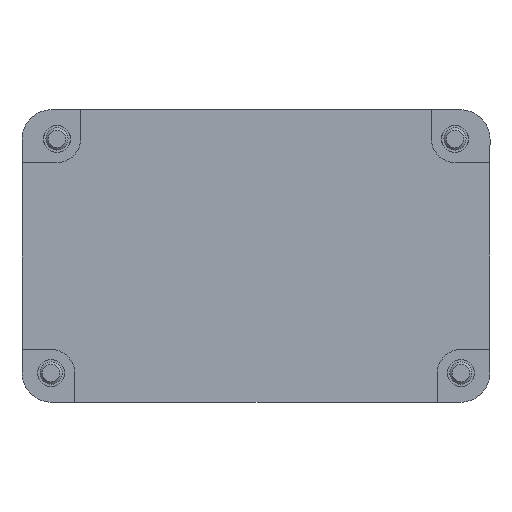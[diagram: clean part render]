
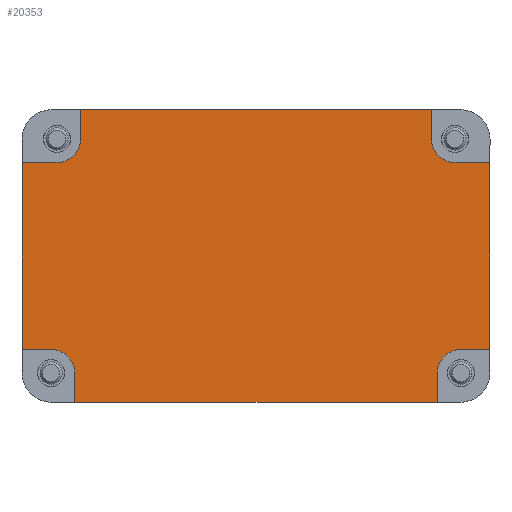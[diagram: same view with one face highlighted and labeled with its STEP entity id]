
A CAD part, front view. The second image highlights one B-rep face of the part: STEP entity #20353.
In plain terms, the highlighted planar face has unit normal (0, -1, 0).
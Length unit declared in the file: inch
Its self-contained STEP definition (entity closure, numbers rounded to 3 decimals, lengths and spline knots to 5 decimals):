
#437 = EDGE_CURVE ( 'NONE', #15793, #42223, #36464, .T. ) ;
#493 = CARTESIAN_POINT ( 'NONE',  ( -0.35825, -1.21408, -0.79851 ) ) ;
#1122 = CIRCLE ( 'NONE', #47755, 0.20149 ) ;
#1432 = CARTESIAN_POINT ( 'NONE',  ( -0.55974, -1.21408, -1. ) ) ;
#1822 = CARTESIAN_POINT ( 'NONE',  ( -3.80825, -1.21408, 0.79851 ) ) ;
#2106 = CIRCLE ( 'NONE', #42299, 0.20149 ) ;
#2331 = DIRECTION ( 'NONE',  ( 0., -1., 0. ) ) ;
#2471 = CARTESIAN_POINT ( 'NONE',  ( -3.60676, -1.21408, 1.2479 ) ) ;
#2693 = CARTESIAN_POINT ( 'NONE',  ( -3.85825, -1.21408, -0.79851 ) ) ;
#2924 = DIRECTION ( 'NONE',  ( 0., -1., 0. ) ) ;
#3318 = CARTESIAN_POINT ( 'NONE',  ( -0.60974, -1.21408, 1.2479 ) ) ;
#4545 = DIRECTION ( 'NONE',  ( 0., -1., 0. ) ) ;
#5139 = B_SPLINE_CURVE_WITH_KNOTS ( 'NONE', 1,
 ( #19714, #27631 ),
 .UNSPECIFIED., .F., .F.,
 ( 2, 2 ),
 ( 0., 1. ),
 .UNSPECIFIED. ) ;
#5157 = CARTESIAN_POINT ( 'NONE',  ( -4.10615, -1.21408, -0.79851 ) ) ;
#5460 = CIRCLE ( 'NONE', #26399, 0.20149 ) ;
#6961 = EDGE_CURVE ( 'NONE', #31471, #32454, #19603, .T. ) ;
#8432 = CARTESIAN_POINT ( 'NONE',  ( -3.60676, -1.21408, 1.2479 ) ) ;
#8604 = EDGE_CURVE ( 'NONE', #49919, #15793, #1122, .T. ) ;
#8987 = B_SPLINE_CURVE_WITH_KNOTS ( 'NONE', 1,
 ( #12265, #8432 ),
 .UNSPECIFIED., .F., .F.,
 ( 2, 2 ),
 ( 0., 1. ),
 .UNSPECIFIED. ) ;
#9755 = CARTESIAN_POINT ( 'NONE',  ( -0.11034, -1.21408, 0.79851 ) ) ;
#10302 = DIRECTION ( 'NONE',  ( 0., -1., 0. ) ) ;
#11742 = EDGE_CURVE ( 'NONE', #28504, #44369, #5139, .T. ) ;
#11899 = CARTESIAN_POINT ( 'NONE',  ( -3.80825, -1.21408, 0.79851 ) ) ;
#12265 = CARTESIAN_POINT ( 'NONE',  ( -3.60676, -1.21408, 1. ) ) ;
#12367 = ORIENTED_EDGE ( 'NONE', *, *, #20000, .F. ) ;
#12531 = CARTESIAN_POINT ( 'NONE',  ( -0.35825, -1.21408, -1. ) ) ;
#12915 = CARTESIAN_POINT ( 'NONE',  ( -0.55974, -1.21408, -1.2479 ) ) ;
#13124 = CARTESIAN_POINT ( 'NONE',  ( -0.60974, -1.21408, 1.2479 ) ) ;
#13566 = B_SPLINE_CURVE_WITH_KNOTS ( 'NONE', 1,
 ( #13124, #14460 ),
 .UNSPECIFIED., .F., .F.,
 ( 2, 2 ),
 ( 0., 1. ),
 .UNSPECIFIED. ) ;
#13617 = ORIENTED_EDGE ( 'NONE', *, *, #17355, .F. ) ;
#13892 = ORIENTED_EDGE ( 'NONE', *, *, #20226, .F. ) ;
#14460 = CARTESIAN_POINT ( 'NONE',  ( -0.60974, -1.21408, 1. ) ) ;
#15304 = CARTESIAN_POINT ( 'NONE',  ( -0.55974, -1.21408, -1.2479 ) ) ;
#15499 = ORIENTED_EDGE ( 'NONE', *, *, #18732, .T. ) ;
#15793 = VERTEX_POINT ( 'NONE', #39724 ) ;
#16339 = DIRECTION ( 'NONE',  ( 0., 0., -1. ) ) ;
#16636 = CARTESIAN_POINT ( 'NONE',  ( -4.10615, -1.21408, -0.79851 ) ) ;
#16943 = CARTESIAN_POINT ( 'NONE',  ( -0.11034, -1.21408, 0.79851 ) ) ;
#17003 = VERTEX_POINT ( 'NONE', #2471 ) ;
#17355 = EDGE_CURVE ( 'NONE', #44030, #44383, #5460, .T. ) ;
#17421 = CARTESIAN_POINT ( 'NONE',  ( -0.35825, -1.21408, -0.79851 ) ) ;
#17474 = CARTESIAN_POINT ( 'NONE',  ( -3.65676, -1.21408, -1. ) ) ;
#17864 = CARTESIAN_POINT ( 'NONE',  ( -3.60676, -1.21408, 1. ) ) ;
#17890 = EDGE_CURVE ( 'NONE', #37002, #49919, #13566, .T. ) ;
#18186 = CARTESIAN_POINT ( 'NONE',  ( -0.40825, -1.21408, 0.79851 ) ) ;
#18507 = CARTESIAN_POINT ( 'NONE',  ( -0.11034, -1.21408, 0.79851 ) ) ;
#18732 = EDGE_CURVE ( 'NONE', #48773, #42223, #48051, .T. ) ;
#19603 = B_SPLINE_CURVE_WITH_KNOTS ( 'NONE', 1,
 ( #36483, #17474 ),
 .UNSPECIFIED., .F., .F.,
 ( 2, 2 ),
 ( 0., 1. ),
 .UNSPECIFIED. ) ;
#19714 = CARTESIAN_POINT ( 'NONE',  ( -3.85825, -1.21408, -0.79851 ) ) ;
#20000 = EDGE_CURVE ( 'NONE', #36673, #46142, #25457, .T. ) ;
#20226 = EDGE_CURVE ( 'NONE', #17003, #37002, #27291, .T. ) ;
#20338 = VERTEX_POINT ( 'NONE', #45098 ) ;
#20353 = ADVANCED_FACE ( 'NONE', ( #32838 ), #48988, .T. ) ;
#20893 = B_SPLINE_CURVE_WITH_KNOTS ( 'NONE', 1,
 ( #16636, #24211 ),
 .UNSPECIFIED., .F., .F.,
 ( 2, 2 ),
 ( 0., 1. ),
 .UNSPECIFIED. ) ;
#21361 = CARTESIAN_POINT ( 'NONE',  ( -3.60676, -1.21408, 1.2479 ) ) ;
#22577 = ORIENTED_EDGE ( 'NONE', *, *, #8604, .F. ) ;
#24174 = CARTESIAN_POINT ( 'NONE',  ( -4.10615, -1.21408, 0.79851 ) ) ;
#24211 = CARTESIAN_POINT ( 'NONE',  ( -4.10615, -1.21408, 0.79851 ) ) ;
#25322 = CARTESIAN_POINT ( 'NONE',  ( -3.80825, -1.21408, 1. ) ) ;
#25457 = B_SPLINE_CURVE_WITH_KNOTS ( 'NONE', 1,
 ( #28688, #1822 ),
 .UNSPECIFIED., .F., .F.,
 ( 2, 2 ),
 ( 0., 1. ),
 .UNSPECIFIED. ) ;
#26025 = ORIENTED_EDGE ( 'NONE', *, *, #11742, .F. ) ;
#26399 = AXIS2_PLACEMENT_3D ( 'NONE', #12531, #39378, #16339 ) ;
#26622 = EDGE_CURVE ( 'NONE', #31471, #20338, #31985, .T. ) ;
#27202 = CARTESIAN_POINT ( 'NONE',  ( -0.11034, -1.21408, -0.79851 ) ) ;
#27291 = B_SPLINE_CURVE_WITH_KNOTS ( 'NONE', 1,
 ( #21361, #44449 ),
 .UNSPECIFIED., .F., .F.,
 ( 2, 2 ),
 ( 0., 1. ),
 .UNSPECIFIED. ) ;
#27376 = EDGE_CURVE ( 'NONE', #46480, #17003, #8987, .T. ) ;
#27400 = B_SPLINE_CURVE_WITH_KNOTS ( 'NONE', 1,
 ( #27202, #493 ),
 .UNSPECIFIED., .F., .F.,
 ( 2, 2 ),
 ( 0., 1. ),
 .UNSPECIFIED. ) ;
#27544 = CARTESIAN_POINT ( 'NONE',  ( -3.85825, -1.21408, -1. ) ) ;
#27631 = CARTESIAN_POINT ( 'NONE',  ( -4.10615, -1.21408, -0.79851 ) ) ;
#28504 = VERTEX_POINT ( 'NONE', #2693 ) ;
#28688 = CARTESIAN_POINT ( 'NONE',  ( -4.10615, -1.21408, 0.79851 ) ) ;
#28776 = EDGE_CURVE ( 'NONE', #32454, #28504, #36418, .T. ) ;
#29192 = DIRECTION ( 'NONE',  ( 0., 0., -1. ) ) ;
#29776 = DIRECTION ( 'NONE',  ( 0., 0., -1. ) ) ;
#30775 = B_SPLINE_CURVE_WITH_KNOTS ( 'NONE', 1,
 ( #30958, #15304 ),
 .UNSPECIFIED., .F., .F.,
 ( 2, 2 ),
 ( 0., 1. ),
 .UNSPECIFIED. ) ;
#30958 = CARTESIAN_POINT ( 'NONE',  ( -0.55974, -1.21408, -1. ) ) ;
#31336 = CARTESIAN_POINT ( 'NONE',  ( -3.65676, -1.21408, -1.2479 ) ) ;
#31409 = DIRECTION ( 'NONE',  ( 0., 0., -1. ) ) ;
#31471 = VERTEX_POINT ( 'NONE', #31336 ) ;
#31985 = B_SPLINE_CURVE_WITH_KNOTS ( 'NONE', 1,
 ( #39799, #12915 ),
 .UNSPECIFIED., .F., .F.,
 ( 2, 2 ),
 ( 0., 1. ),
 .UNSPECIFIED. ) ;
#32454 = VERTEX_POINT ( 'NONE', #34839 ) ;
#32838 = FACE_OUTER_BOUND ( 'NONE', #39081, .T. ) ;
#33161 = ORIENTED_EDGE ( 'NONE', *, *, #27376, .F. ) ;
#33319 = CARTESIAN_POINT ( 'NONE',  ( -0.40825, -1.21408, 1. ) ) ;
#33517 = CARTESIAN_POINT ( 'NONE',  ( -0.55974, -1.21408, -1.12895 ) ) ;
#34057 = ORIENTED_EDGE ( 'NONE', *, *, #43828, .F. ) ;
#34422 = AXIS2_PLACEMENT_3D ( 'NONE', #27544, #4545, #31409 ) ;
#34619 = AXIS2_PLACEMENT_3D ( 'NONE', #33517, #2924, #29776 ) ;
#34651 = ORIENTED_EDGE ( 'NONE', *, *, #28776, .F. ) ;
#34839 = CARTESIAN_POINT ( 'NONE',  ( -3.65676, -1.21408, -1. ) ) ;
#35719 = EDGE_CURVE ( 'NONE', #44383, #20338, #30775, .T. ) ;
#36418 = CIRCLE ( 'NONE', #34422, 0.20149 ) ;
#36464 = B_SPLINE_CURVE_WITH_KNOTS ( 'NONE', 1,
 ( #18186, #18507 ),
 .UNSPECIFIED., .F., .F.,
 ( 2, 2 ),
 ( 0., 1. ),
 .UNSPECIFIED. ) ;
#36483 = CARTESIAN_POINT ( 'NONE',  ( -3.65676, -1.21408, -1.2479 ) ) ;
#36606 = CARTESIAN_POINT ( 'NONE',  ( -0.11034, -1.21408, -0.79851 ) ) ;
#36654 = ORIENTED_EDGE ( 'NONE', *, *, #49352, .F. ) ;
#36673 = VERTEX_POINT ( 'NONE', #24174 ) ;
#37002 = VERTEX_POINT ( 'NONE', #3318 ) ;
#37149 = DIRECTION ( 'NONE',  ( 0., 0., -1. ) ) ;
#37717 = ORIENTED_EDGE ( 'NONE', *, *, #46860, .F. ) ;
#37807 = ORIENTED_EDGE ( 'NONE', *, *, #26622, .T. ) ;
#39081 = EDGE_LOOP ( 'NONE', ( #26025, #34651, #42814, #37807, #47487, #13617, #34057, #15499, #46773, #22577, #45241, #13892, #33161, #36654, #12367, #37717 ) ) ;
#39378 = DIRECTION ( 'NONE',  ( 0., -1., 0. ) ) ;
#39724 = CARTESIAN_POINT ( 'NONE',  ( -0.40825, -1.21408, 0.79851 ) ) ;
#39799 = CARTESIAN_POINT ( 'NONE',  ( -3.65676, -1.21408, -1.2479 ) ) ;
#42223 = VERTEX_POINT ( 'NONE', #16943 ) ;
#42299 = AXIS2_PLACEMENT_3D ( 'NONE', #25322, #2331, #29192 ) ;
#42814 = ORIENTED_EDGE ( 'NONE', *, *, #6961, .F. ) ;
#43828 = EDGE_CURVE ( 'NONE', #48773, #44030, #27400, .T. ) ;
#44030 = VERTEX_POINT ( 'NONE', #17421 ) ;
#44369 = VERTEX_POINT ( 'NONE', #5157 ) ;
#44383 = VERTEX_POINT ( 'NONE', #1432 ) ;
#44449 = CARTESIAN_POINT ( 'NONE',  ( -0.60974, -1.21408, 1.2479 ) ) ;
#44601 = CARTESIAN_POINT ( 'NONE',  ( -0.60974, -1.21408, 1. ) ) ;
#45098 = CARTESIAN_POINT ( 'NONE',  ( -0.55974, -1.21408, -1.2479 ) ) ;
#45241 = ORIENTED_EDGE ( 'NONE', *, *, #17890, .F. ) ;
#46142 = VERTEX_POINT ( 'NONE', #11899 ) ;
#46480 = VERTEX_POINT ( 'NONE', #17864 ) ;
#46638 = CARTESIAN_POINT ( 'NONE',  ( -0.11034, -1.21408, -0.79851 ) ) ;
#46773 = ORIENTED_EDGE ( 'NONE', *, *, #437, .F. ) ;
#46860 = EDGE_CURVE ( 'NONE', #44369, #36673, #20893, .T. ) ;
#47487 = ORIENTED_EDGE ( 'NONE', *, *, #35719, .F. ) ;
#47755 = AXIS2_PLACEMENT_3D ( 'NONE', #33319, #10302, #37149 ) ;
#48051 = B_SPLINE_CURVE_WITH_KNOTS ( 'NONE', 1,
 ( #36606, #9755 ),
 .UNSPECIFIED., .F., .F.,
 ( 2, 2 ),
 ( 0., 1. ),
 .UNSPECIFIED. ) ;
#48773 = VERTEX_POINT ( 'NONE', #46638 ) ;
#48988 = PLANE ( 'NONE',  #34619 ) ;
#49352 = EDGE_CURVE ( 'NONE', #46142, #46480, #2106, .T. ) ;
#49919 = VERTEX_POINT ( 'NONE', #44601 ) ;
